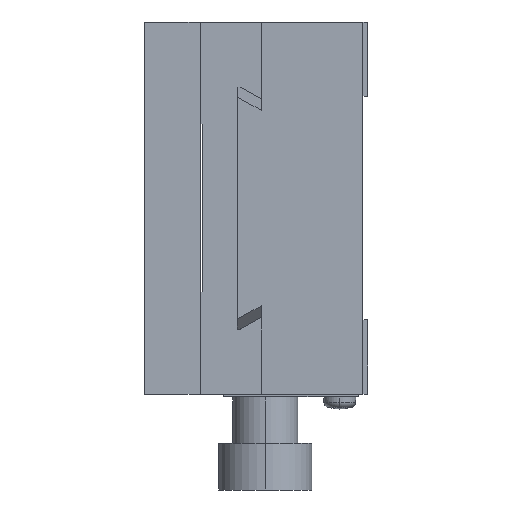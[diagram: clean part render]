
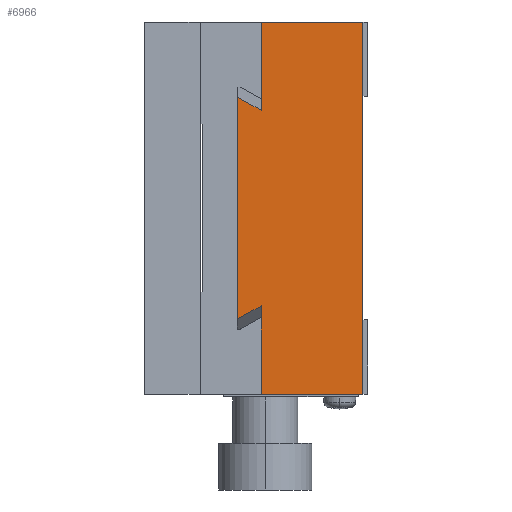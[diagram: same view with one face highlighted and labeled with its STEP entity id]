
A CAD part, left-side view. The second image highlights one B-rep face of the part: STEP entity #6966.
In plain terms, the highlighted planar face has unit normal (-1, 0, 0).
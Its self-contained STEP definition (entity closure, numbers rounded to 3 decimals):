
#231 = CARTESIAN_POINT ( 'NONE',  ( -27., 11.438, 10.517 ) ) ;
#232 = CARTESIAN_POINT ( 'NONE',  ( -27., 14., 11.905 ) ) ;
#233 = CARTESIAN_POINT ( 'NONE',  ( -27., 12.292, 10.981 ) ) ;
#234 = CARTESIAN_POINT ( 'NONE',  ( -27., 13.146, 11.443 ) ) ;
#2568 = ORIENTED_EDGE ( 'NONE', *, *, #6737, .F. ) ;
#2569 = ORIENTED_EDGE ( 'NONE', *, *, #6714, .F. ) ;
#5222 = B_SPLINE_CURVE_WITH_KNOTS ( 'NONE', 3,
 ( #232, #234, #233, #231 ),
 .UNSPECIFIED., .F., .F.,
 ( 4, 4 ),
 ( 0.013, 0.016 ),
 .UNSPECIFIED. ) ;
#5278 = CARTESIAN_POINT ( 'NONE',  ( -27., 11.438, 10.517 ) ) ;
#5292 = CARTESIAN_POINT ( 'NONE',  ( -27., 11.438, 20. ) ) ;
#5293 = DIRECTION ( 'NONE',  ( 0., 0., 1. ) ) ;
#5294 = VECTOR ( 'NONE', #5293, 1000. ) ;
#5295 = CARTESIAN_POINT ( 'NONE',  ( -27., 11.438, 0. ) ) ;
#5299 = LINE ( 'NONE', #5295, #5294 ) ;
#5321 = CARTESIAN_POINT ( 'NONE',  ( -27., 0.5, 20. ) ) ;
#5322 = DIRECTION ( 'NONE',  ( 0., -1., 0. ) ) ;
#5323 = VECTOR ( 'NONE', #5322, 1000. ) ;
#5324 = CARTESIAN_POINT ( 'NONE',  ( -27., 0.5, 20. ) ) ;
#5325 = LINE ( 'NONE', #5324, #5323 ) ;
#5412 = CARTESIAN_POINT ( 'NONE',  ( -27., 14., 11.905 ) ) ;
#5413 = DIRECTION ( 'NONE',  ( 0., 0., -1. ) ) ;
#5414 = VECTOR ( 'NONE', #5413, 1000. ) ;
#5415 = CARTESIAN_POINT ( 'NONE',  ( -27., 14., 20. ) ) ;
#5420 = CARTESIAN_POINT ( 'NONE',  ( -27., 14., -11.905 ) ) ;
#5422 = LINE ( 'NONE', #5415, #5414 ) ;
#5621 = CARTESIAN_POINT ( 'NONE',  ( -27., 0.5, -20. ) ) ;
#5622 = DIRECTION ( 'NONE',  ( 0., -1., 0. ) ) ;
#5623 = VECTOR ( 'NONE', #5622, 1000. ) ;
#5624 = CARTESIAN_POINT ( 'NONE',  ( -27., 0.5, -20. ) ) ;
#5625 = LINE ( 'NONE', #5624, #5623 ) ;
#5675 = CARTESIAN_POINT ( 'NONE',  ( -27., 13.146, -11.443 ) ) ;
#5676 = CARTESIAN_POINT ( 'NONE',  ( -27., 12.292, -10.981 ) ) ;
#5677 = CARTESIAN_POINT ( 'NONE',  ( -27., 11.438, -10.517 ) ) ;
#5678 = B_SPLINE_CURVE_WITH_KNOTS ( 'NONE', 3,
 ( #5677, #5676, #5675, #5732 ),
 .UNSPECIFIED., .F., .F.,
 ( 4, 4 ),
 ( 0.015, 0.018 ),
 .UNSPECIFIED. ) ;
#5681 = CARTESIAN_POINT ( 'NONE',  ( -27., 11.438, -10.517 ) ) ;
#5732 = CARTESIAN_POINT ( 'NONE',  ( -27., 14., -11.905 ) ) ;
#5733 = DIRECTION ( 'NONE',  ( 0., 0., -1. ) ) ;
#5734 = VECTOR ( 'NONE', #5733, 1000. ) ;
#5735 = CARTESIAN_POINT ( 'NONE',  ( -27., 0.5, 20. ) ) ;
#5736 = LINE ( 'NONE', #5735, #5734 ) ;
#5738 = DIRECTION ( 'NONE',  ( 0., 0., -1. ) ) ;
#5739 = DIRECTION ( 'NONE',  ( 1., 0., 0. ) ) ;
#5740 = CARTESIAN_POINT ( 'NONE',  ( -27., 0.5, 20. ) ) ;
#5741 = AXIS2_PLACEMENT_3D ( 'NONE', #5740, #5739, #5738 ) ;
#5742 = PLANE ( 'NONE',  #5741 ) ;
#5743 = FACE_OUTER_BOUND ( 'NONE', #6967, .T. ) ;
#5759 = CARTESIAN_POINT ( 'NONE',  ( -27., 11.438, -20. ) ) ;
#5760 = DIRECTION ( 'NONE',  ( 0., 0., 1. ) ) ;
#5761 = VECTOR ( 'NONE', #5760, 1000. ) ;
#5762 = CARTESIAN_POINT ( 'NONE',  ( -27., 11.438, 0. ) ) ;
#5763 = LINE ( 'NONE', #5762, #5761 ) ;
#6684 = EDGE_CURVE ( 'NONE', #6784, #6685, #5222, .T. ) ;
#6685 = VERTEX_POINT ( 'NONE', #5278 ) ;
#6714 = EDGE_CURVE ( 'NONE', #6685, #6715, #5299, .T. ) ;
#6715 = VERTEX_POINT ( 'NONE', #5292 ) ;
#6737 = EDGE_CURVE ( 'NONE', #6715, #6738, #5325, .T. ) ;
#6738 = VERTEX_POINT ( 'NONE', #5321 ) ;
#6781 = VERTEX_POINT ( 'NONE', #5420 ) ;
#6783 = EDGE_CURVE ( 'NONE', #6784, #6781, #5422, .T. ) ;
#6784 = VERTEX_POINT ( 'NONE', #5412 ) ;
#6888 = ORIENTED_EDGE ( 'NONE', *, *, #6889, .T. ) ;
#6889 = EDGE_CURVE ( 'NONE', #6953, #6890, #5625, .T. ) ;
#6890 = VERTEX_POINT ( 'NONE', #5621 ) ;
#6921 = VERTEX_POINT ( 'NONE', #5681 ) ;
#6923 = EDGE_CURVE ( 'NONE', #6921, #6781, #5678, .T. ) ;
#6952 = EDGE_CURVE ( 'NONE', #6953, #6921, #5763, .T. ) ;
#6953 = VERTEX_POINT ( 'NONE', #5759 ) ;
#6966 = ADVANCED_FACE ( 'NONE', ( #5743 ), #5742, .F. ) ;
#6967 = EDGE_LOOP ( 'NONE', ( #6968, #6969, #6888, #6972, #2568, #2569, #6971, #6976 ) ) ;
#6968 = ORIENTED_EDGE ( 'NONE', *, *, #6923, .F. ) ;
#6969 = ORIENTED_EDGE ( 'NONE', *, *, #6952, .F. ) ;
#6970 = EDGE_CURVE ( 'NONE', #6738, #6890, #5736, .T. ) ;
#6971 = ORIENTED_EDGE ( 'NONE', *, *, #6684, .F. ) ;
#6972 = ORIENTED_EDGE ( 'NONE', *, *, #6970, .F. ) ;
#6976 = ORIENTED_EDGE ( 'NONE', *, *, #6783, .T. ) ;
